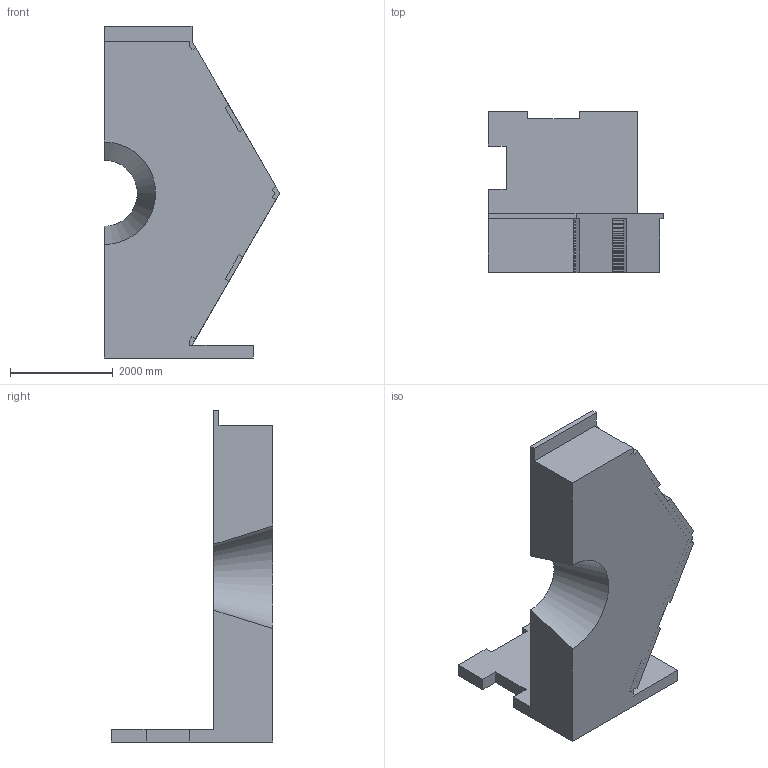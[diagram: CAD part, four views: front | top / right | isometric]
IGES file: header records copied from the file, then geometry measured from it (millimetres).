
Start section:  PTC IGES file: fr_fwd_door_left.igs
Global section: file name: fr_fwd_door_left.igs; native system: Pro/ENGINEER by Parametric Technology Corporation; preprocessor: 1999260; author: oshatz; organization: Unknown; date: 000922.101801; units: millimetre
Bounding box: 3416.8 x 3150 x 6468 mm (x, y, z)
Surface area: 94363603.5 mm2 (no closed solid volume)
Topology: 0 solids, 0 shells, 306 faces, 1974 edges, 1974 vertices
Faces by surface type: bspline 305, revolution 1
